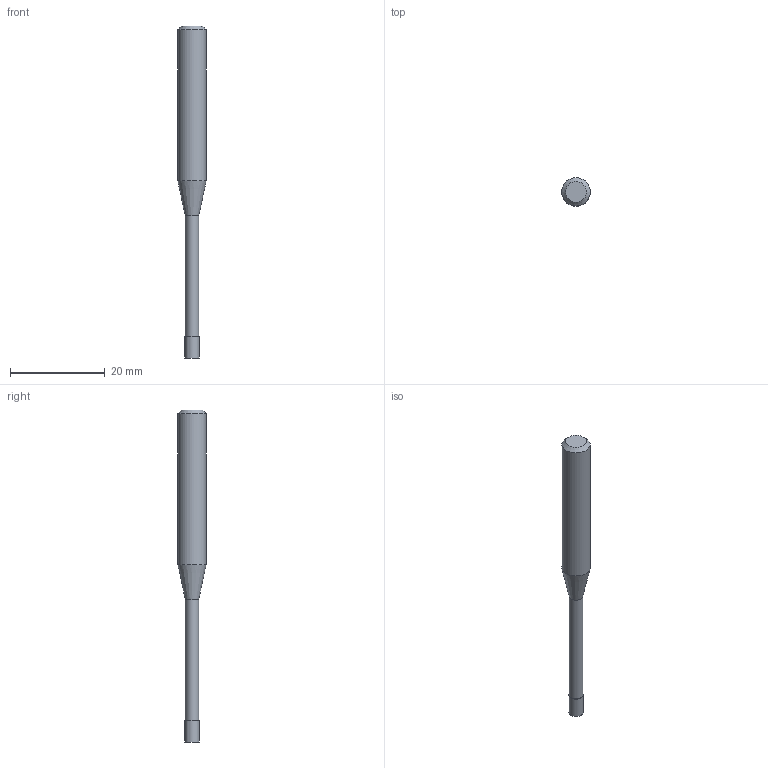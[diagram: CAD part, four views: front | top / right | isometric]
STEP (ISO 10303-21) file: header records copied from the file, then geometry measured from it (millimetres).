
FILE_DESCRIPTION((''),'2;1');
FILE_NAME('C:\Users\nsx150\AppData\Local\Temp\Mastercam 2021\RJ5U8K7RMU\TEMP.step','2021-04-21T16:42:48',(''),(''),'STEP Write','Mastercam 2021 ... CNC Software, Inc.','');
FILE_SCHEMA(('AUTOMOTIVE_DESIGN'));
Length unit declared in the file: millimetre
Products named in the file (1): None
Bounding box: 6 x 6 x 70 mm (x, y, z)
Volume: 1229.2 mm3; surface area: 1029.5 mm2
Topology: 2 solids, 2 shells, 9 faces, 12 edges, 7 vertices
Faces by surface type: plane 4, cylinder 3, cone 2
Full cylindrical faces by diameter (mm): 2.85 x1, 3 x1, 6 x1
Entity records: 211 total; most frequent: DIRECTION 36, CARTESIAN_POINT 25, AXIS2_PLACEMENT_3D 18, ORIENTED_EDGE 14, EDGE_LOOP 14, STYLED_ITEM 12, ADVANCED_FACE 9, FACE_BOUND 8
